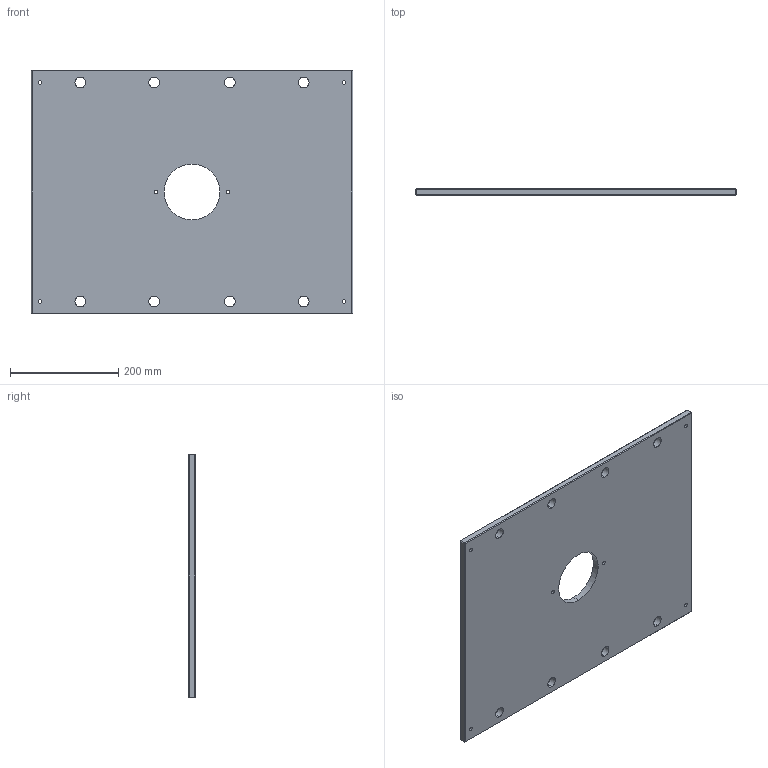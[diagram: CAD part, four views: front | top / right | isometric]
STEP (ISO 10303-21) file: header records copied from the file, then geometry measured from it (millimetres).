
FILE_DESCRIPTION (( 'STEP AP214' ), '1' );
FILE_NAME ('ME-0619-CH-1823.STEP', '2020-02-13T09:47:48', ( '' ), ( '' ), 'SwSTEP 2.0', 'SolidWorks 2018', '' );
FILE_SCHEMA (( 'AUTOMOTIVE_DESIGN' ));
Length unit declared in the file: inch
Products named in the file (1): ME-0619-CH-1823
Bounding box: 593.73 x 12.7 x 450.85 mm (x, y, z)
Volume: 3254500.1 mm3; surface area: 548565.3 mm2
Topology: 1 solids, 1 shells, 68 faces, 162 edges, 96 vertices
Faces by surface type: cylinder 30, plane 26, cone 12
Entity records: 2050 total; most frequent: DIRECTION 372, CARTESIAN_POINT 327, ORIENTED_EDGE 324, EDGE_CURVE 162, AXIS2_PLACEMENT_3D 141, EDGE_LOOP 98, VERTEX_POINT 96, VECTOR 90
